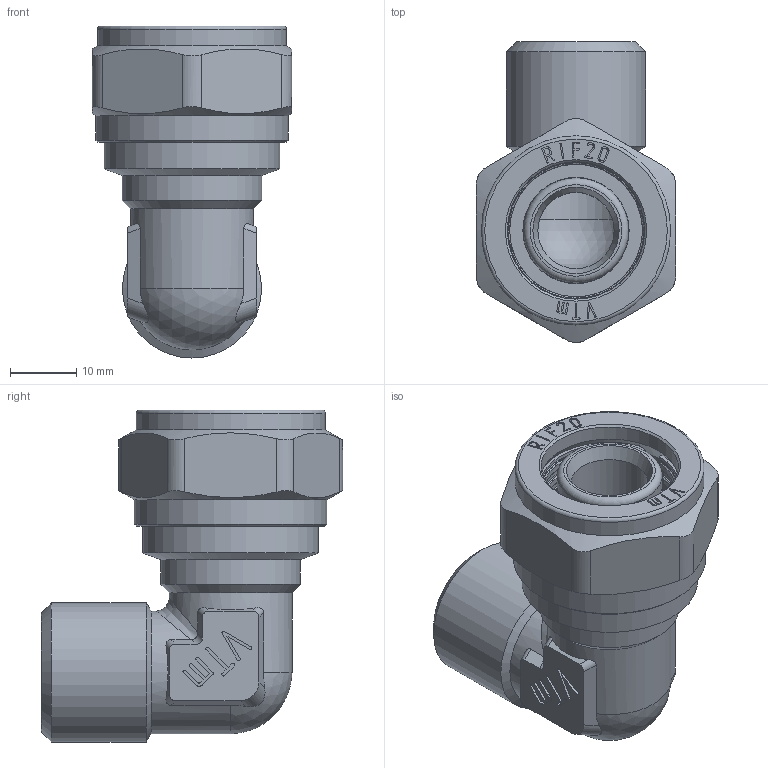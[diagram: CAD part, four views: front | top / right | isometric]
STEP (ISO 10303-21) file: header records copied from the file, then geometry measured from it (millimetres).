
FILE_DESCRIPTION(('STEP AP203'), '1');
FILE_NAME('VTm.353.N.002004', '', ('UNSPECIFIED'), ('UNSPECIFIED'), 'C3D Converter', 'C3D Toolkit', '');
FILE_SCHEMA(('CONFIG_CONTROL_DESIGN'));
Length unit declared in the file: millimetre
Products named in the file (1): ВР.302635.109.000 СБ
Bounding box: 30 x 45.35 x 50.01 mm (x, y, z)
Volume: 17104.6 mm3; surface area: 12575.9 mm2
Topology: 1 solids, 1 shells, 443 faces, 1224 edges, 807 vertices
Faces by surface type: extrusion 195, plane 157, cylinder 46, torus 27, cone 15, sphere 2, bspline 1
Full cylindrical faces by diameter (mm): 11.5 x1, 15 x1, 15.8 x4, 15.9 x1, 18.5 x2, 20.1 x1, 20.2 x1, 20.7 x1, 20.955 x1, 21 x1, 24.118 x1, 26.441 x1, 28.5 x1, 29 x1
Entity records: 16165 total; most frequent: CARTESIAN_POINT 5958, ORIENTED_EDGE 2354, DIRECTION 1464, EDGE_CURVE 1177, VERTEX_POINT 806, VECTOR 754, B_SPLINE_CURVE_WITH_KNOTS 668, LINE 559
